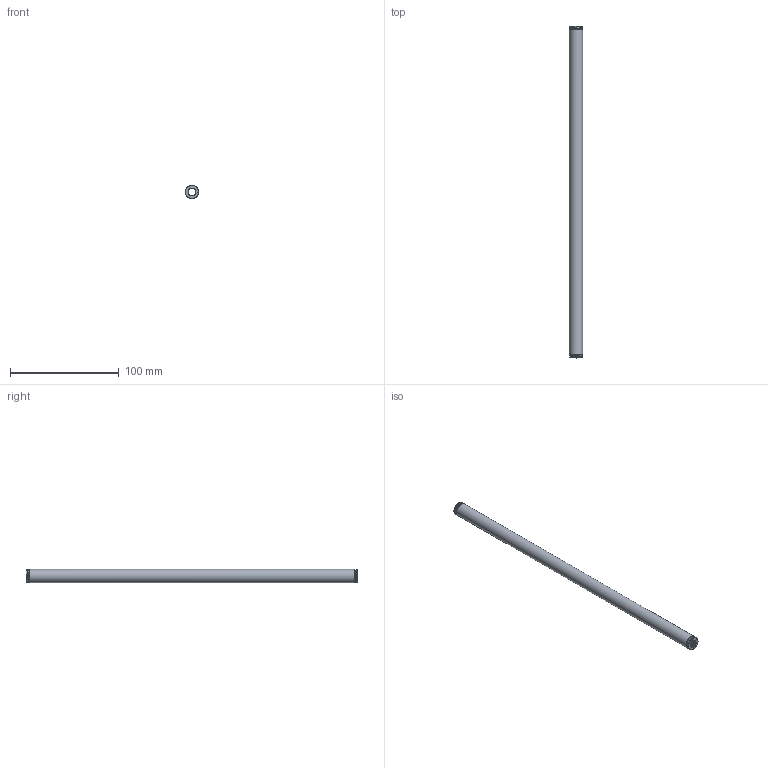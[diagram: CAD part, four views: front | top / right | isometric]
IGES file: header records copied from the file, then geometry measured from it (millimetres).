
Global section: file name: 2S13303; native system: Autodesk Inventor 2026; preprocessor: unknown; author: J. Iwanek; date: 20261007.112615; units: millimetre
Bounding box: 12.21 x 305 x 12.2 mm (x, y, z)
Volume: 10797.3 mm3; surface area: 18747.5 mm2
Topology: 1 solids, 1 shells, 22 faces, 76 edges, 47 vertices
Faces by surface type: bspline 22
